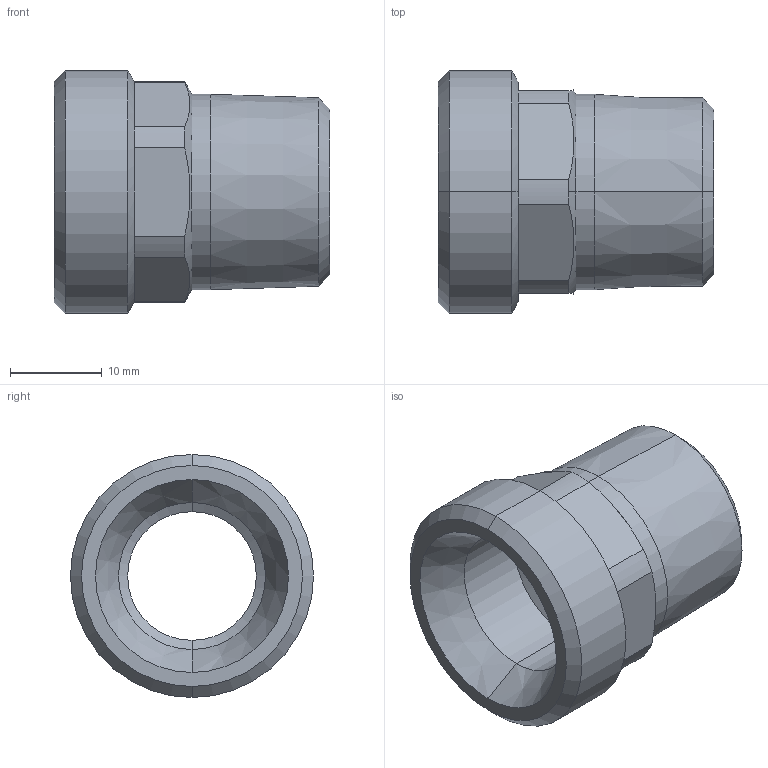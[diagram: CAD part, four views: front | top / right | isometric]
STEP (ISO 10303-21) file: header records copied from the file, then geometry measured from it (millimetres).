
FILE_DESCRIPTION((''),'2;1');
FILE_NAME('14386_12-34(1).stp','2009-08-26T08:53:57',(''),(''),'Mechanical Desktop 2009','Mechanical Desktop 2009',', , ');
FILE_SCHEMA(('CONFIG_CONTROL_DESIGN'));
Length unit declared in the file: millimetre
Products named in the file (2): 14386-12-34(1); CZﾊ姑1
Assembly tree (1 placements, depth 2):
  14386-12-34(1)
    CZﾊ姑1
Bounding box: 30 x 26.44 x 26.44 mm (x, y, z)
Volume: 6878.7 mm3; surface area: 4066.4 mm2
Topology: 1 solids, 1 shells, 48 faces, 110 edges, 64 vertices
Faces by surface type: plane 20, cylinder 14, cone 14
Entity records: 1443 total; most frequent: DIRECTION 250, CARTESIAN_POINT 248, ORIENTED_EDGE 220, EDGE_CURVE 110, AXIS2_PLACEMENT_3D 102, VERTEX_POINT 64, CIRCLE 52, EDGE_LOOP 50
